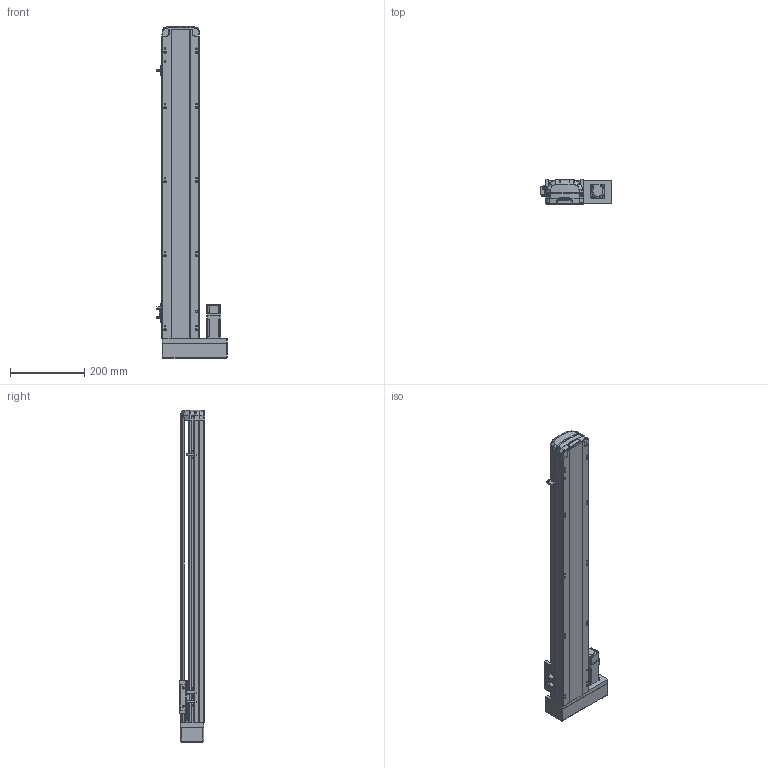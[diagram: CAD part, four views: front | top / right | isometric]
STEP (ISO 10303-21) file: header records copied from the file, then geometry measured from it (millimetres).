
FILE_DESCRIPTION (( 'STEP AP214' ), '1' );
FILE_NAME ('RTH10-XX-650-R-M10-C4.STEP', '2025-10-25T05:55:01', ( 'Microsoft' ), ( 'Microsoft' ), 'SwSTEP 2.0', 'SolidWorks 2018', '' );
FILE_SCHEMA (( 'AUTOMOTIVE_DESIGN' ));
Length unit declared in the file: millimetre
Products named in the file (10): N_OMRON EE-SX672 传感器^RTH10-XX-100-R-M10-C4; N_RTH12-GY-001P^RTH10-XX-100-R-M10-C4; N_RTH13-L-012覜茼え俋离^RTH10-XX-100-R-M10-C4; N_RTH12-M-007P-奻裔^RTH10-XX-100-R-M10-C4; N_RTH12-L-008萇儂啣^RTH10-XX-100-R-M10-C4; N_RTH12-M-011P-臏倰第菁釱^RTH10-XX-100-R-M10-C4; RTH10-XX-650-R-M10-C4; N_P10^RTH10-XX-100-R-M10-C4; N_RTH12-L-018-裔赽^RTH10-XX-100-R-M10-C4; N_RTH12-GY-004-賑釱^RTH10-XX-100-R-M10-C4
Assembly tree (11 placements, depth 2):
  RTH10-XX-650-R-M10-C4
    N_RTH12-M-011P-臏倰第菁釱^RTH10-XX-100-R-M10-C4
    N_RTH13-L-012覜茼え俋离^RTH10-XX-100-R-M10-C4
    N_OMRON EE-SX672 传感器^RTH10-XX-100-R-M10-C4  x3
    N_P10^RTH10-XX-100-R-M10-C4
    N_RTH12-M-007P-奻裔^RTH10-XX-100-R-M10-C4
    N_RTH12-L-008萇儂啣^RTH10-XX-100-R-M10-C4
    N_RTH12-L-018-裔赽^RTH10-XX-100-R-M10-C4
    N_RTH12-GY-004-賑釱^RTH10-XX-100-R-M10-C4
    N_RTH12-GY-001P^RTH10-XX-100-R-M10-C4
Bounding box: 190 x 70 x 897.14 mm (x, y, z)
Volume: 3930309.7 mm3; surface area: 606089 mm2
Topology: 10 solids, 12 shells, 1920 faces, 5356 edges, 3513 vertices
Faces by surface type: plane 947, bspline 472, cylinder 466, cone 29, sphere 4, torus 2
Entity records: 57748 total; most frequent: CARTESIAN_POINT 23089, ORIENTED_EDGE 7784, DIRECTION 5958, EDGE_CURVE 3898, VERTEX_POINT 2557, VECTOR 2042, LINE 2042, AXIS2_PLACEMENT_3D 1958
